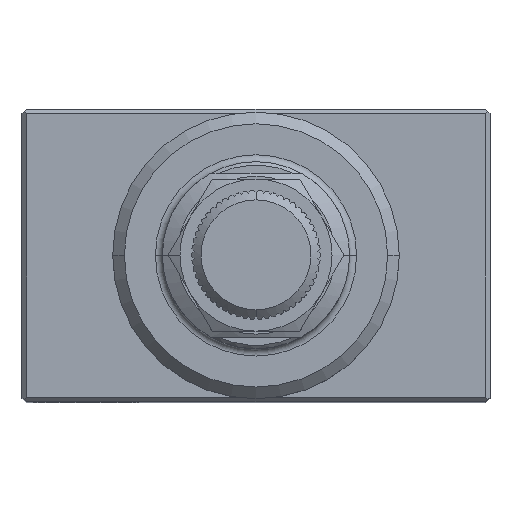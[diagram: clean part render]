
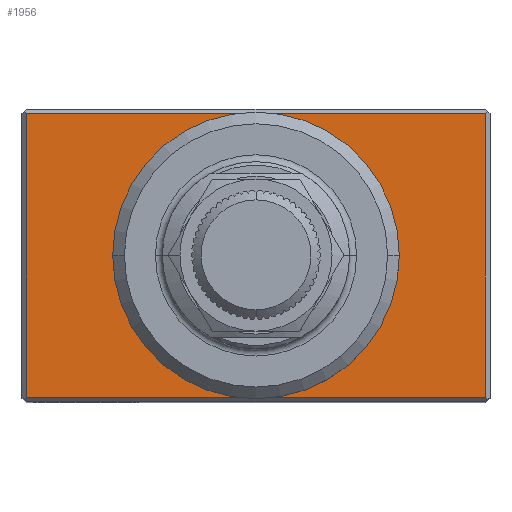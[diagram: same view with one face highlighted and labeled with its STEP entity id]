
A CAD part, top view. The second image highlights one B-rep face of the part: STEP entity #1956.
In plain terms, the highlighted planar face has unit normal (0, 0, 1).
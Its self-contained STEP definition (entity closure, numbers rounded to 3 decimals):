
#1516=PLANE('',#8431);
#1702=FACE_BOUND('',#2905,.T.);
#1703=FACE_BOUND('',#2906,.T.);
#1956=ADVANCED_FACE('',(#1702,#1703),#1516,.T.);
#2905=EDGE_LOOP('',(#4722,#4723));
#2906=EDGE_LOOP('',(#4724,#4725,#4726,#4727));
#3362=LINE('',#11706,#3785);
#3363=LINE('',#11709,#3786);
#3364=LINE('',#11711,#3787);
#3365=LINE('',#11713,#3788);
#3785=VECTOR('',#9746,1.);
#3786=VECTOR('',#9747,1.);
#3787=VECTOR('',#9748,1.);
#3788=VECTOR('',#9749,1.);
#4722=ORIENTED_EDGE('',*,*,#7107,.F.);
#4723=ORIENTED_EDGE('',*,*,#7030,.F.);
#4724=ORIENTED_EDGE('',*,*,#7108,.T.);
#4725=ORIENTED_EDGE('',*,*,#7109,.T.);
#4726=ORIENTED_EDGE('',*,*,#7110,.T.);
#4727=ORIENTED_EDGE('',*,*,#7111,.T.);
#6251=VERTEX_POINT('',#11544);
#6252=VERTEX_POINT('',#11546);
#6315=VERTEX_POINT('',#11707);
#6316=VERTEX_POINT('',#11708);
#6317=VERTEX_POINT('',#11710);
#6318=VERTEX_POINT('',#11712);
#7030=EDGE_CURVE('',#6251,#6252,#7881,.T.);
#7107=EDGE_CURVE('',#6252,#6251,#7915,.T.);
#7108=EDGE_CURVE('',#6315,#6316,#3362,.T.);
#7109=EDGE_CURVE('',#6316,#6317,#3363,.T.);
#7110=EDGE_CURVE('',#6317,#6318,#3364,.T.);
#7111=EDGE_CURVE('',#6318,#6315,#3365,.T.);
#7881=CIRCLE('',#8376,11.2);
#7915=CIRCLE('',#8430,11.2);
#8376=AXIS2_PLACEMENT_3D('',#11545,#9593,#9594);
#8430=AXIS2_PLACEMENT_3D('',#11705,#9744,#9745);
#8431=AXIS2_PLACEMENT_3D('',#11714,#9750,#9751);
#9593=DIRECTION('',(0.,0.,1.));
#9594=DIRECTION('',(1.,0.,0.));
#9744=DIRECTION('',(0.,0.,1.));
#9745=DIRECTION('',(1.,0.,0.));
#9746=DIRECTION('',(0.,-1.,0.));
#9747=DIRECTION('',(1.,0.,0.));
#9748=DIRECTION('',(0.,1.,0.));
#9749=DIRECTION('',(-1.,0.,0.));
#9750=DIRECTION('',(0.,0.,1.));
#9751=DIRECTION('',(-1.,0.,0.));
#11544=CARTESIAN_POINT('',(-11.2,0.,50.));
#11545=CARTESIAN_POINT('',(0.,0.,50.));
#11546=CARTESIAN_POINT('',(11.2,0.,50.));
#11705=CARTESIAN_POINT('',(0.,0.,50.));
#11706=CARTESIAN_POINT('',(-19.6,-12.5,50.));
#11707=CARTESIAN_POINT('',(-19.6,12.1,50.));
#11708=CARTESIAN_POINT('',(-19.6,-12.1,50.));
#11709=CARTESIAN_POINT('',(19.6,-12.1,50.));
#11710=CARTESIAN_POINT('',(19.6,-12.1,50.));
#11711=CARTESIAN_POINT('',(19.6,12.5,50.));
#11712=CARTESIAN_POINT('',(19.6,12.1,50.));
#11713=CARTESIAN_POINT('',(-19.6,12.1,50.));
#11714=CARTESIAN_POINT('',(-20.,-12.5,50.));
